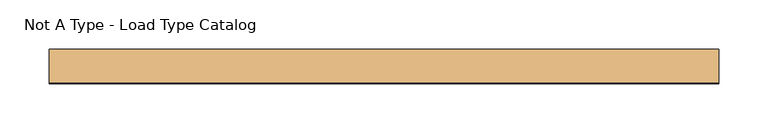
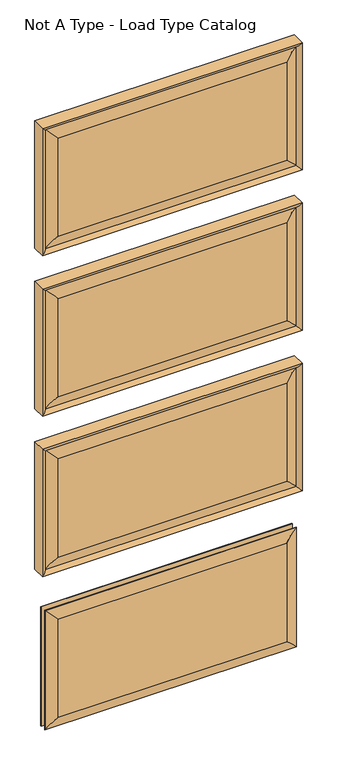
"""IFC4 building model written with IfcOpenShell, lengths in millimetres: door geometry, Door-Interior-Karona-K3040-4_Panel : Not A Type - Load Type Catalog."""

from ifc_helpers import new_model, si_unit, frame, origin, place, context, project, spatial, polyline, ellipse_curve, source, transform, mapped, element, save
from ifc_brep_helpers import plane_surface, cylinder_surface, revolved_surface, advanced_brep


def not_a_type_load_type_catalog_7697b4af(model_context):
    return source(origin(), model_context, "Body", "AdvancedBrep", [
        advanced_brep(
        [(-330.1873, 60.5616875, 1893.8748), (330.1873, 60.5616875, 1893.8748), (330.1873, 61.8853774, 1893.8748), (-330.1873, 61.8853774, 1893.8748), (330.1873, 60.5616875, 1562.90645), (-330.1873, 60.5616875, 1562.90645), (-330.1873, 61.8853774, 1562.90645), (330.1873, 61.8853774, 1562.90645), (-300.8782521, 69.9962, 1864.5657521), (300.8782521, 69.9962, 1864.5657521), (300.8782521, 69.9962, 1592.2154979), (-300.8782521, 69.9962, 1592.2154979)],
        [
            (0, 1),
            (1, 2),
            (2, 3),
            (3, 0),
            (4, 5),
            (5, 6),
            (6, 7),
            (7, 4),
            (5, 0),
            (3, 6),
            (8, 9),
            (9, 10),
            (10, 11),
            (11, 8),
            (1, 4),
            (7, 2),
            (2, 9, ellipse_curve(frame((332.1256685, 125.9004136, 1895.8131685), z_axis=(0.7071067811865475, 0.0, -0.7071067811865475), x_axis=(-0.7071067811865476, 0.0, -0.7071067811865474)), 90.5724254, 64.0443762)),
            (8, 3, ellipse_curve(frame((-332.1256685, 125.9004136, 1895.8131685), z_axis=(-0.7071067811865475, 0.0, -0.7071067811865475), x_axis=(-0.7071067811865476, 0.0, 0.7071067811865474)), 90.5724254, 64.0443762)),
            (7, 10, ellipse_curve(frame((332.1256685, 125.9004136, 1560.9680815), z_axis=(-0.7071067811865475, 0.0, -0.7071067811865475), x_axis=(-0.7071067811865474, 0.0, 0.7071067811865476)), 90.5724254, 64.0443762)),
            (6, 11, ellipse_curve(frame((-332.1256685, 125.9004136, 1560.9680815), z_axis=(-0.7071067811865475, 0.0, 0.7071067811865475), x_axis=(0.7071067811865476, 0.0, 0.7071067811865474)), 90.5724254, 64.0443762)),
        ],
        [
            plane_surface(frame((330.1873, 60.5616875, 1893.8748), z_axis=(0.0, 0.0, 1.0), x_axis=(1.0, 0.0, 0.0))),
            plane_surface(frame((330.1873, 60.5616875, 1562.90645), z_axis=(0.0, 0.0, -1.0), x_axis=(-1.0, 0.0, 0.0))),
            plane_surface(frame((-330.1873, 69.9962, 1893.8748), z_axis=(-1.0, 0.0, 0.0), x_axis=(0.0, 0.0, -1.0))),
            plane_surface(frame((330.1873, 69.9962, 1893.8748), z_axis=(0.0, 1.0, 0.0), x_axis=(0.0, 0.0, -1.0))),
            plane_surface(frame((330.1873, 60.5616875, 1893.8748), z_axis=(1.0, 0.0, 0.0), x_axis=(0.0, 0.0, -1.0))),
            plane_surface(frame((-330.1873, 60.5616875, 1893.8748), z_axis=(0.0, -1.0, 0.0), x_axis=(0.0, 0.0, -1.0))),
            revolved_surface(polyline([(-396.1700446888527, 125.9004136, 1831.7687923), (396.17004468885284, 125.9004136, 1831.7687923)]), (-341.3125, 125.9004136, 1895.8131685), (-1.0, 0.0, 0.0)),
            revolved_surface(polyline([(268.08129230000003, 125.9004136, 1959.8575446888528), (268.08129230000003, 125.9004136, 1496.9237053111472)]), (332.1256685, 125.9004136, 1905.0), (0.0, 0.0, 1.0)),
            revolved_surface(polyline([(396.1700446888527, 125.9004136, 1625.0124577), (-396.17004468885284, 125.9004136, 1625.0124577)]), (341.3125, 125.9004136, 1560.9680815), (1.0, 0.0, 0.0)),
            revolved_surface(polyline([(-268.08129230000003, 125.9004136, 1496.9237053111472), (-268.08129230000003, 125.9004136, 1959.8575446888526)]), (-332.1256685, 125.9004136, 1551.78125), (0.0, 0.0, -1.0)),
        ],
        [
            (0, [[1, 2, 3, 4]]),
            (1, [[5, 6, 7, 8]]),
            (2, [[9, -4, 10, -6]]),
            (3, [[11, 12, 13, 14]]),
            (4, [[15, -8, 16, -2]]),
            (5, [[-1, -9, -5, -15]]),
            (6, [[17, -11, 18, -3]]),
            (7, [[-17, -16, 19, -12]]),
            (8, [[-19, -7, 20, -13]]),
            (9, [[-20, -10, -18, -14]]),
        ],
    ),
        advanced_brep(
        [(330.1873, 44.3564875, 1893.8748), (-330.1873, 44.3564875, 1893.8748), (-330.1873, 43.0327976, 1893.8748), (330.1873, 43.0327976, 1893.8748), (-330.1873, 44.3564875, 1562.90645), (330.1873, 44.3564875, 1562.90645), (330.1873, 43.0327976, 1562.90645), (-330.1873, 43.0327976, 1562.90645), (-300.8527043, 34.9076875, 1592.2410457), (300.8527043, 34.9076875, 1592.2410457), (300.8527043, 34.9076875, 1864.5402043), (-300.8527043, 34.9076875, 1864.5402043)],
        [
            (0, 1),
            (1, 2),
            (2, 3),
            (3, 0),
            (4, 5),
            (5, 6),
            (6, 7),
            (7, 4),
            (0, 5),
            (4, 1),
            (8, 9),
            (9, 10),
            (10, 11),
            (11, 8),
            (8, 7, ellipse_curve(frame((-332.1256685, -20.9822386, 1560.9680815), z_axis=(-0.7071067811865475, 0.0, 0.7071067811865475), x_axis=(0.7071067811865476, 0.0, 0.7071067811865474)), 90.5724254, 64.0443762)),
            (6, 9, ellipse_curve(frame((332.1256685, -20.9822386, 1560.9680815), z_axis=(0.7071067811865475, 0.0, 0.7071067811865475), x_axis=(0.7071067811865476, 0.0, -0.7071067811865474)), 90.5724254, 64.0443762)),
            (11, 2, ellipse_curve(frame((-332.1256685, -20.9822386, 1895.8131685), z_axis=(0.7071067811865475, 0.0, 0.7071067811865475), x_axis=(0.7071067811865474, 0.0, -0.7071067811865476)), 90.5724254, 64.0443762)),
            (2, 7),
            (10, 3, ellipse_curve(frame((332.1256685, -20.9822386, 1895.8131685), z_axis=(0.7071067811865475, 0.0, -0.7071067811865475), x_axis=(-0.7071067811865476, 0.0, -0.7071067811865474)), 90.5724254, 64.0443762)),
            (6, 3),
        ],
        [
            plane_surface(frame((330.1873, 60.5616875, 1893.8748), z_axis=(0.0, 0.0, 1.0), x_axis=(1.0, 0.0, 0.0))),
            plane_surface(frame((330.1873, 60.5616875, 1562.90645), z_axis=(0.0, 0.0, -1.0), x_axis=(-1.0, 0.0, 0.0))),
            plane_surface(frame((330.1873, 44.3564875, 1893.8748), z_axis=(0.0, 1.0, 0.0), x_axis=(0.0, 0.0, -1.0))),
            plane_surface(frame((-330.1873, 34.9076875, 1893.8748), z_axis=(0.0, -1.0, 0.0), x_axis=(0.0, 0.0, -1.0))),
            revolved_surface(polyline([(396.1700446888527, -20.9822386, 1625.0124577), (-396.17004468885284, -20.9822386, 1625.0124577)]), (341.3125, -20.9822386, 1560.9680815), (1.0, 0.0, 0.0)),
            revolved_surface(polyline([(-268.08129230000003, -20.9822386, 1496.9237053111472), (-268.08129230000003, -20.9822386, 1959.8575446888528)]), (-332.1256685, -20.9822386, 1551.78125), (0.0, 0.0, -1.0)),
            revolved_surface(polyline([(-396.1700446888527, -20.9822386, 1831.7687923), (396.17004468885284, -20.9822386, 1831.7687923)]), (-341.3125, -20.9822386, 1895.8131685), (-1.0, 0.0, 0.0)),
            revolved_surface(polyline([(268.08129230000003, -20.9822386, 1959.8575446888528), (268.08129230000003, -20.9822386, 1496.9237053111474)]), (332.1256685, -20.9822386, 1905.0), (0.0, 0.0, 1.0)),
            plane_surface(frame((-330.1873, 44.3564875, 1893.8748), z_axis=(-1.0, 0.0, 0.0), x_axis=(0.0, 0.0, -1.0))),
            plane_surface(frame((330.1873, 34.9076875, 1893.8748), z_axis=(1.0, 0.0, 0.0), x_axis=(0.0, 0.0, -1.0))),
        ],
        [
            (0, [[1, 2, 3, 4]]),
            (1, [[5, 6, 7, 8]]),
            (2, [[-1, 9, -5, 10]]),
            (3, [[11, 12, 13, 14]]),
            (4, [[15, -7, 16, -11]]),
            (5, [[-15, -14, 17, 18]]),
            (6, [[-17, -13, 19, -3]]),
            (7, [[-19, -12, -16, 20]]),
            (8, [[-10, -8, -18, -2]]),
            (9, [[-9, -4, -20, -6]]),
        ],
    ),
        advanced_brep(
        [(341.3125, 69.9962, 1551.78125), (341.3125, 35.0346875, 1551.78125), (-341.3125, 35.0346875, 1551.78125), (-341.3125, 69.9962, 1551.78125), (330.1873, 60.5616875, 1562.90645), (330.1873, 61.8710899, 1562.90645), (-330.1873, 61.8710899, 1562.90645), (-330.1873, 60.5616875, 1562.90645), (340.0425, 44.3564875, 1553.05125), (340.0425, 60.5616875, 1553.05125), (-340.0425, 60.5616875, 1553.05125), (-340.0425, 44.3564875, 1553.05125), (-341.3125, 35.0346875, 1905.0), (-341.3125, 69.9962, 1905.0), (-330.1873, 61.8710899, 1893.8748), (-330.1873, 60.5616875, 1893.8748), (-340.0425, 60.5616875, 1903.73), (-340.0425, 44.3564875, 1903.73), (341.3125, 35.0346875, 1905.0), (341.3125, 69.9962, 1905.0), (330.1873, 61.8710899, 1893.8748), (330.1873, 60.5616875, 1893.8748), (340.0425, 60.5616875, 1903.73), (340.0425, 44.3564875, 1903.73), (329.9871863, 44.3564875, 1563.1065637), (329.9871863, 44.3564875, 1893.6746863), (-329.9871863, 44.3564875, 1893.6746863), (-329.9871863, 44.3564875, 1563.1065637), (339.0773, 69.9962, 1554.01645), (-339.0773, 69.9962, 1554.01645), (-339.0773, 69.9962, 1902.7648), (339.0773, 69.9962, 1902.7648)],
        [
            (0, 1),
            (1, 2),
            (2, 3),
            (3, 0),
            (4, 5),
            (5, 6),
            (6, 7),
            (7, 4),
            (8, 9),
            (9, 10),
            (10, 11),
            (11, 8),
            (2, 12),
            (12, 13),
            (13, 3),
            (6, 14),
            (14, 15),
            (15, 7),
            (10, 16),
            (16, 17),
            (17, 11),
            (12, 18),
            (18, 19),
            (19, 13),
            (14, 20),
            (20, 21),
            (21, 15),
            (16, 22),
            (22, 23),
            (23, 17),
            (18, 1),
            (0, 19),
            (20, 5),
            (4, 21),
            (9, 22),
            (8, 23),
            (24, 25),
            (25, 26),
            (26, 27),
            (27, 24),
            (5, 28, ellipse_curve(frame((339.0773, 61.070197, 1554.01645), z_axis=(-0.7071067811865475, 0.0, -0.7071067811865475), x_axis=(0.7071067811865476, 0.0, -0.7071067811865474)), 12.6232745, 8.926003)),
            (28, 29),
            (29, 6, ellipse_curve(frame((-339.0773, 61.070197, 1554.01645), z_axis=(0.7071067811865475, 0.0, -0.7071067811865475), x_axis=(0.7071067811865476, 0.0, 0.7071067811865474)), 12.6232745, 8.926003)),
            (1, 24, ellipse_curve(frame((340.2814876, 45.322701, 1552.8122624), z_axis=(-0.7071067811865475, 0.0, -0.7071067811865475), x_axis=(0.7071067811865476, 0.0, -0.7071067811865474)), 14.6223259, 10.3395458)),
            (27, 2, ellipse_curve(frame((-340.2814876, 45.322701, 1552.8122624), z_axis=(0.7071067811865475, 0.0, -0.7071067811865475), x_axis=(0.7071067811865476, 0.0, 0.7071067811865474)), 14.6223259, 10.3395458)),
            (29, 30),
            (30, 14, ellipse_curve(frame((-339.0773, 61.070197, 1902.7648), z_axis=(-0.7071067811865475, 0.0, -0.7071067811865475), x_axis=(0.7071067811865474, 0.0, -0.7071067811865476)), 12.6232745, 8.926003)),
            (26, 12, ellipse_curve(frame((-340.2814876, 45.322701, 1903.9689876), z_axis=(-0.7071067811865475, 0.0, -0.7071067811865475), x_axis=(0.7071067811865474, 0.0, -0.7071067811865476)), 14.6223259, 10.3395458)),
            (30, 31),
            (31, 20, ellipse_curve(frame((339.0773, 61.070197, 1902.7648), z_axis=(-0.7071067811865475, 0.0, 0.7071067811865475), x_axis=(-0.7071067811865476, 0.0, -0.7071067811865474)), 12.6232745, 8.926003)),
            (25, 18, ellipse_curve(frame((340.2814876, 45.322701, 1903.9689876), z_axis=(-0.7071067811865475, 0.0, 0.7071067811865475), x_axis=(-0.7071067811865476, 0.0, -0.7071067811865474)), 14.6223259, 10.3395458)),
            (28, 31),
        ],
        [
            plane_surface(frame((341.3125, 35.0346875, 1551.78125), z_axis=(0.0, 0.0, -1.0), x_axis=(-1.0, 0.0, 0.0))),
            plane_surface(frame((330.1873, 61.8710899, 1562.90645), z_axis=(0.0, 0.0, 1.0), x_axis=(-1.0, 0.0, 0.0))),
            plane_surface(frame((340.0425, 60.5616875, 1553.05125), z_axis=(0.0, 0.0, 1.0), x_axis=(-1.0, 0.0, 0.0))),
            plane_surface(frame((-341.3125, 35.0346875, 1551.78125), z_axis=(-1.0, 0.0, 0.0), x_axis=(0.0, 0.0, 1.0))),
            plane_surface(frame((-330.1873, 61.8710899, 1562.90645), z_axis=(1.0, 0.0, 0.0), x_axis=(0.0, 0.0, 1.0))),
            plane_surface(frame((-340.0425, 60.5616875, 1553.05125), z_axis=(1.0, 0.0, 0.0), x_axis=(0.0, 0.0, 1.0))),
            plane_surface(frame((-341.3125, 35.0346875, 1905.0), z_axis=(0.0, 0.0, 1.0), x_axis=(1.0, 0.0, 0.0))),
            plane_surface(frame((-330.1873, 61.8710899, 1893.8748), z_axis=(0.0, 0.0, -1.0), x_axis=(1.0, 0.0, 0.0))),
            plane_surface(frame((-340.0425, 60.5616875, 1903.73), z_axis=(0.0, 0.0, -1.0), x_axis=(1.0, 0.0, 0.0))),
            plane_surface(frame((341.3125, 35.0346875, 1905.0), z_axis=(1.0, 0.0, 0.0), x_axis=(0.0, 0.0, -1.0))),
            plane_surface(frame((330.1873, 61.8710899, 1893.8748), z_axis=(-1.0, 0.0, 0.0), x_axis=(0.0, 0.0, -1.0))),
            plane_surface(frame((330.1873, 60.5616875, 1893.8748), z_axis=(0.0, -1.0, 0.0), x_axis=(0.0, 0.0, -1.0))),
            plane_surface(frame((340.0425, 60.5616875, 1903.73), z_axis=(-1.0, 0.0, 0.0), x_axis=(0.0, 0.0, -1.0))),
            plane_surface(frame((340.0425, 44.3564875, 1903.73), z_axis=(0.0, 1.0, 0.0), x_axis=(0.0, 0.0, -1.0))),
            cylinder_surface(frame((341.3125, 61.070197, 1554.01645), z_axis=(1.0, 0.0, 0.0), x_axis=(0.0, -1.0, 0.0)), 8.926003),
            cylinder_surface(frame((341.3125, 45.322701, 1552.8122624), z_axis=(1.0, 0.0, 0.0), x_axis=(0.0, -1.0, 0.0)), 10.3395458),
            cylinder_surface(frame((-339.0773, 61.070197, 1551.78125), z_axis=(0.0, 0.0, -1.0), x_axis=(0.0, -1.0, 0.0)), 8.926003),
            cylinder_surface(frame((-340.2814876, 45.322701, 1551.78125), z_axis=(0.0, 0.0, -1.0), x_axis=(0.0, -1.0, 0.0)), 10.3395458),
            cylinder_surface(frame((-341.3125, 61.070197, 1902.7648), z_axis=(-1.0, 0.0, 0.0), x_axis=(0.0, -1.0, 0.0)), 8.926003),
            cylinder_surface(frame((-341.3125, 45.322701, 1903.9689876), z_axis=(-1.0, 0.0, 0.0), x_axis=(0.0, -1.0, 0.0)), 10.3395458),
            plane_surface(frame((341.3125, 69.9962, 1905.0), z_axis=(0.0, 1.0, 0.0), x_axis=(0.0, 0.0, -1.0))),
            cylinder_surface(frame((339.0773, 61.070197, 1905.0), z_axis=(0.0, 0.0, 1.0), x_axis=(0.0, -1.0, 0.0)), 8.926003),
            cylinder_surface(frame((340.2814876, 45.322701, 1905.0), z_axis=(0.0, 0.0, 1.0), x_axis=(0.0, -1.0, 0.0)), 10.3395458),
        ],
        [
            (0, [[1, 2, 3, 4]]),
            (1, [[5, 6, 7, 8]]),
            (2, [[9, 10, 11, 12]]),
            (3, [[-3, 13, 14, 15]]),
            (4, [[-7, 16, 17, 18]]),
            (5, [[-11, 19, 20, 21]]),
            (6, [[-14, 22, 23, 24]]),
            (7, [[-17, 25, 26, 27]]),
            (8, [[-20, 28, 29, 30]]),
            (9, [[-23, 31, -1, 32]]),
            (10, [[-26, 33, -5, 34]]),
            (11, [[35, -28, -19, -10], [-18, -27, -34, -8]]),
            (12, [[-29, -35, -9, 36]]),
            (13, [[-21, -30, -36, -12], [37, 38, 39, 40]]),
            (14, [[41, 42, 43, -6]]),
            (15, [[44, -40, 45, -2]]),
            (16, [[-43, 46, 47, -16]]),
            (17, [[-45, -39, 48, -13]]),
            (18, [[-47, 49, 50, -25]]),
            (19, [[-48, -38, 51, -22]]),
            (20, [[-15, -24, -32, -4], [52, -49, -46, -42]]),
            (21, [[-50, -52, -41, -33]]),
            (22, [[-51, -37, -44, -31]]),
        ],
    ),
        advanced_brep(
        [(-330.1873, 60.5616875, 1448.58105), (330.1873, 60.5616875, 1448.58105), (330.1873, 61.8853774, 1448.58105), (-330.1873, 61.8853774, 1448.58105), (330.1873, 60.5616875, 1117.6127), (-330.1873, 60.5616875, 1117.6127), (-330.1873, 61.8853774, 1117.6127), (330.1873, 61.8853774, 1117.6127), (-300.8782521, 69.9962, 1419.2720021), (300.8782521, 69.9962, 1419.2720021), (300.8782521, 69.9962, 1146.9217479), (-300.8782521, 69.9962, 1146.9217479)],
        [
            (0, 1),
            (1, 2),
            (2, 3),
            (3, 0),
            (4, 5),
            (5, 6),
            (6, 7),
            (7, 4),
            (5, 0),
            (3, 6),
            (8, 9),
            (9, 10),
            (10, 11),
            (11, 8),
            (1, 4),
            (7, 2),
            (2, 9, ellipse_curve(frame((332.1256685, 125.9004136, 1450.5194185), z_axis=(0.7071067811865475, 0.0, -0.7071067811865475), x_axis=(-0.7071067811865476, 0.0, -0.7071067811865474)), 90.5724254, 64.0443762)),
            (8, 3, ellipse_curve(frame((-332.1256685, 125.9004136, 1450.5194185), z_axis=(-0.7071067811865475, 0.0, -0.7071067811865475), x_axis=(-0.7071067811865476, 0.0, 0.7071067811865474)), 90.5724254, 64.0443762)),
            (7, 10, ellipse_curve(frame((332.1256685, 125.9004136, 1115.6743315), z_axis=(-0.7071067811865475, 0.0, -0.7071067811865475), x_axis=(-0.7071067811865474, 0.0, 0.7071067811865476)), 90.5724254, 64.0443762)),
            (6, 11, ellipse_curve(frame((-332.1256685, 125.9004136, 1115.6743315), z_axis=(-0.7071067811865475, 0.0, 0.7071067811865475), x_axis=(0.7071067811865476, 0.0, 0.7071067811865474)), 90.5724254, 64.0443762)),
        ],
        [
            plane_surface(frame((330.1873, 60.5616875, 1448.58105), z_axis=(0.0, 0.0, 1.0), x_axis=(1.0, 0.0, 0.0))),
            plane_surface(frame((330.1873, 60.5616875, 1117.6127), z_axis=(0.0, 0.0, -1.0), x_axis=(-1.0, 0.0, 0.0))),
            plane_surface(frame((-330.1873, 69.9962, 1448.58105), z_axis=(-1.0, 0.0, 0.0), x_axis=(0.0, 0.0, -1.0))),
            plane_surface(frame((330.1873, 69.9962, 1448.58105), z_axis=(0.0, 1.0, 0.0), x_axis=(0.0, 0.0, -1.0))),
            plane_surface(frame((330.1873, 60.5616875, 1448.58105), z_axis=(1.0, 0.0, 0.0), x_axis=(0.0, 0.0, -1.0))),
            plane_surface(frame((-330.1873, 60.5616875, 1448.58105), z_axis=(0.0, -1.0, 0.0), x_axis=(0.0, 0.0, -1.0))),
            revolved_surface(polyline([(-396.1700446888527, 125.9004136, 1386.4750423), (396.17004468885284, 125.9004136, 1386.4750423)]), (-341.3125, 125.9004136, 1450.5194185), (-1.0, 0.0, 0.0)),
            revolved_surface(polyline([(268.08129230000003, 125.9004136, 1514.5637946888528), (268.08129230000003, 125.9004136, 1051.6299553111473)]), (332.1256685, 125.9004136, 1459.70625), (0.0, 0.0, 1.0)),
            revolved_surface(polyline([(396.1700446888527, 125.9004136, 1179.7187077), (-396.17004468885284, 125.9004136, 1179.7187077)]), (341.3125, 125.9004136, 1115.6743315), (1.0, 0.0, 0.0)),
            revolved_surface(polyline([(-268.08129230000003, 125.9004136, 1051.6299553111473), (-268.08129230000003, 125.9004136, 1514.5637946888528)]), (-332.1256685, 125.9004136, 1106.4875), (0.0, 0.0, -1.0)),
        ],
        [
            (0, [[1, 2, 3, 4]]),
            (1, [[5, 6, 7, 8]]),
            (2, [[9, -4, 10, -6]]),
            (3, [[11, 12, 13, 14]]),
            (4, [[15, -8, 16, -2]]),
            (5, [[-1, -9, -5, -15]]),
            (6, [[17, -11, 18, -3]]),
            (7, [[-17, -16, 19, -12]]),
            (8, [[-19, -7, 20, -13]]),
            (9, [[-20, -10, -18, -14]]),
        ],
    ),
        advanced_brep(
        [(330.1873, 44.3564875, 1448.58105), (-330.1873, 44.3564875, 1448.58105), (-330.1873, 43.0327976, 1448.58105), (330.1873, 43.0327976, 1448.58105), (-330.1873, 44.3564875, 1117.6127), (330.1873, 44.3564875, 1117.6127), (330.1873, 43.0327976, 1117.6127), (-330.1873, 43.0327976, 1117.6127), (-300.8527043, 34.9076875, 1146.9472957), (300.8527043, 34.9076875, 1146.9472957), (300.8527043, 34.9076875, 1419.2464543), (-300.8527043, 34.9076875, 1419.2464543)],
        [
            (0, 1),
            (1, 2),
            (2, 3),
            (3, 0),
            (4, 5),
            (5, 6),
            (6, 7),
            (7, 4),
            (0, 5),
            (4, 1),
            (8, 9),
            (9, 10),
            (10, 11),
            (11, 8),
            (8, 7, ellipse_curve(frame((-332.1256685, -20.9822386, 1115.6743315), z_axis=(-0.7071067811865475, 0.0, 0.7071067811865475), x_axis=(0.7071067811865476, 0.0, 0.7071067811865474)), 90.5724254, 64.0443762)),
            (6, 9, ellipse_curve(frame((332.1256685, -20.9822386, 1115.6743315), z_axis=(0.7071067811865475, 0.0, 0.7071067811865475), x_axis=(0.7071067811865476, 0.0, -0.7071067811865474)), 90.5724254, 64.0443762)),
            (11, 2, ellipse_curve(frame((-332.1256685, -20.9822386, 1450.5194185), z_axis=(0.7071067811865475, 0.0, 0.7071067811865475), x_axis=(0.7071067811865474, 0.0, -0.7071067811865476)), 90.5724254, 64.0443762)),
            (2, 7),
            (10, 3, ellipse_curve(frame((332.1256685, -20.9822386, 1450.5194185), z_axis=(0.7071067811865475, 0.0, -0.7071067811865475), x_axis=(-0.7071067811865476, 0.0, -0.7071067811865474)), 90.5724254, 64.0443762)),
            (6, 3),
        ],
        [
            plane_surface(frame((330.1873, 60.5616875, 1448.58105), z_axis=(0.0, 0.0, 1.0), x_axis=(1.0, 0.0, 0.0))),
            plane_surface(frame((330.1873, 60.5616875, 1117.6127), z_axis=(0.0, 0.0, -1.0), x_axis=(-1.0, 0.0, 0.0))),
            plane_surface(frame((330.1873, 44.3564875, 1448.58105), z_axis=(0.0, 1.0, 0.0), x_axis=(0.0, 0.0, -1.0))),
            plane_surface(frame((-330.1873, 34.9076875, 1448.58105), z_axis=(0.0, -1.0, 0.0), x_axis=(0.0, 0.0, -1.0))),
            revolved_surface(polyline([(396.1700446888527, -20.9822386, 1179.7187077), (-396.17004468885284, -20.9822386, 1179.7187077)]), (341.3125, -20.9822386, 1115.6743315), (1.0, 0.0, 0.0)),
            revolved_surface(polyline([(-268.08129230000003, -20.9822386, 1051.6299553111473), (-268.08129230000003, -20.9822386, 1514.5637946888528)]), (-332.1256685, -20.9822386, 1106.4875), (0.0, 0.0, -1.0)),
            revolved_surface(polyline([(-396.1700446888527, -20.9822386, 1386.4750423), (396.17004468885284, -20.9822386, 1386.4750423)]), (-341.3125, -20.9822386, 1450.5194185), (-1.0, 0.0, 0.0)),
            revolved_surface(polyline([(268.08129230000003, -20.9822386, 1514.5637946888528), (268.08129230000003, -20.9822386, 1051.6299553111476)]), (332.1256685, -20.9822386, 1459.70625), (0.0, 0.0, 1.0)),
            plane_surface(frame((-330.1873, 44.3564875, 1448.58105), z_axis=(-1.0, 0.0, 0.0), x_axis=(0.0, 0.0, -1.0))),
            plane_surface(frame((330.1873, 34.9076875, 1448.58105), z_axis=(1.0, 0.0, 0.0), x_axis=(0.0, 0.0, -1.0))),
        ],
        [
            (0, [[1, 2, 3, 4]]),
            (1, [[5, 6, 7, 8]]),
            (2, [[-1, 9, -5, 10]]),
            (3, [[11, 12, 13, 14]]),
            (4, [[15, -7, 16, -11]]),
            (5, [[-15, -14, 17, 18]]),
            (6, [[-17, -13, 19, -3]]),
            (7, [[-19, -12, -16, 20]]),
            (8, [[-10, -8, -18, -2]]),
            (9, [[-9, -4, -20, -6]]),
        ],
    ),
        advanced_brep(
        [(341.3125, 69.9962, 1106.4875), (341.3125, 35.0346875, 1106.4875), (-341.3125, 35.0346875, 1106.4875), (-341.3125, 69.9962, 1106.4875), (330.1873, 60.5616875, 1117.6127), (330.1873, 61.8710899, 1117.6127), (-330.1873, 61.8710899, 1117.6127), (-330.1873, 60.5616875, 1117.6127), (340.0425, 44.3564875, 1107.7575), (340.0425, 60.5616875, 1107.7575), (-340.0425, 60.5616875, 1107.7575), (-340.0425, 44.3564875, 1107.7575), (-341.3125, 35.0346875, 1459.70625), (-341.3125, 69.9962, 1459.70625), (-330.1873, 61.8710899, 1448.58105), (-330.1873, 60.5616875, 1448.58105), (-340.0425, 60.5616875, 1458.43625), (-340.0425, 44.3564875, 1458.43625), (341.3125, 35.0346875, 1459.70625), (341.3125, 69.9962, 1459.70625), (330.1873, 61.8710899, 1448.58105), (330.1873, 60.5616875, 1448.58105), (340.0425, 60.5616875, 1458.43625), (340.0425, 44.3564875, 1458.43625), (329.9871863, 44.3564875, 1117.8128137), (329.9871863, 44.3564875, 1448.3809363), (-329.9871863, 44.3564875, 1448.3809363), (-329.9871863, 44.3564875, 1117.8128137), (339.0773, 69.9962, 1108.7227), (-339.0773, 69.9962, 1108.7227), (-339.0773, 69.9962, 1457.47105), (339.0773, 69.9962, 1457.47105)],
        [
            (0, 1),
            (1, 2),
            (2, 3),
            (3, 0),
            (4, 5),
            (5, 6),
            (6, 7),
            (7, 4),
            (8, 9),
            (9, 10),
            (10, 11),
            (11, 8),
            (2, 12),
            (12, 13),
            (13, 3),
            (6, 14),
            (14, 15),
            (15, 7),
            (10, 16),
            (16, 17),
            (17, 11),
            (12, 18),
            (18, 19),
            (19, 13),
            (14, 20),
            (20, 21),
            (21, 15),
            (16, 22),
            (22, 23),
            (23, 17),
            (18, 1),
            (0, 19),
            (20, 5),
            (4, 21),
            (9, 22),
            (8, 23),
            (24, 25),
            (25, 26),
            (26, 27),
            (27, 24),
            (5, 28, ellipse_curve(frame((339.0773, 61.070197, 1108.7227), z_axis=(-0.7071067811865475, 0.0, -0.7071067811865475), x_axis=(0.7071067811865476, 0.0, -0.7071067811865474)), 12.6232745, 8.926003)),
            (28, 29),
            (29, 6, ellipse_curve(frame((-339.0773, 61.070197, 1108.7227), z_axis=(0.7071067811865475, 0.0, -0.7071067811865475), x_axis=(0.7071067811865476, 0.0, 0.7071067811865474)), 12.6232745, 8.926003)),
            (1, 24, ellipse_curve(frame((340.2814876, 45.322701, 1107.5185124), z_axis=(-0.7071067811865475, 0.0, -0.7071067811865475), x_axis=(0.7071067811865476, 0.0, -0.7071067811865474)), 14.6223259, 10.3395458)),
            (27, 2, ellipse_curve(frame((-340.2814876, 45.322701, 1107.5185124), z_axis=(0.7071067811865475, 0.0, -0.7071067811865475), x_axis=(0.7071067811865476, 0.0, 0.7071067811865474)), 14.6223259, 10.3395458)),
            (29, 30),
            (30, 14, ellipse_curve(frame((-339.0773, 61.070197, 1457.47105), z_axis=(-0.7071067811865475, 0.0, -0.7071067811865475), x_axis=(0.7071067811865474, 0.0, -0.7071067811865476)), 12.6232745, 8.926003)),
            (26, 12, ellipse_curve(frame((-340.2814876, 45.322701, 1458.6752376), z_axis=(-0.7071067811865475, 0.0, -0.7071067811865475), x_axis=(0.7071067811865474, 0.0, -0.7071067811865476)), 14.6223259, 10.3395458)),
            (30, 31),
            (31, 20, ellipse_curve(frame((339.0773, 61.070197, 1457.47105), z_axis=(-0.7071067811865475, 0.0, 0.7071067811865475), x_axis=(-0.7071067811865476, 0.0, -0.7071067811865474)), 12.6232745, 8.926003)),
            (25, 18, ellipse_curve(frame((340.2814876, 45.322701, 1458.6752376), z_axis=(-0.7071067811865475, 0.0, 0.7071067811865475), x_axis=(-0.7071067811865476, 0.0, -0.7071067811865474)), 14.6223259, 10.3395458)),
            (28, 31),
        ],
        [
            plane_surface(frame((341.3125, 35.0346875, 1106.4875), z_axis=(0.0, 0.0, -1.0), x_axis=(-1.0, 0.0, 0.0))),
            plane_surface(frame((330.1873, 61.8710899, 1117.6127), z_axis=(0.0, 0.0, 1.0), x_axis=(-1.0, 0.0, 0.0))),
            plane_surface(frame((340.0425, 60.5616875, 1107.7575), z_axis=(0.0, 0.0, 1.0), x_axis=(-1.0, 0.0, 0.0))),
            plane_surface(frame((-341.3125, 35.0346875, 1106.4875), z_axis=(-1.0, 0.0, 0.0), x_axis=(0.0, 0.0, 1.0))),
            plane_surface(frame((-330.1873, 61.8710899, 1117.6127), z_axis=(1.0, 0.0, 0.0), x_axis=(0.0, 0.0, 1.0))),
            plane_surface(frame((-340.0425, 60.5616875, 1107.7575), z_axis=(1.0, 0.0, 0.0), x_axis=(0.0, 0.0, 1.0))),
            plane_surface(frame((-341.3125, 35.0346875, 1459.70625), z_axis=(0.0, 0.0, 1.0), x_axis=(1.0, 0.0, 0.0))),
            plane_surface(frame((-330.1873, 61.8710899, 1448.58105), z_axis=(0.0, 0.0, -1.0), x_axis=(1.0, 0.0, 0.0))),
            plane_surface(frame((-340.0425, 60.5616875, 1458.43625), z_axis=(0.0, 0.0, -1.0), x_axis=(1.0, 0.0, 0.0))),
            plane_surface(frame((341.3125, 35.0346875, 1459.70625), z_axis=(1.0, 0.0, 0.0), x_axis=(0.0, 0.0, -1.0))),
            plane_surface(frame((330.1873, 61.8710899, 1448.58105), z_axis=(-1.0, 0.0, 0.0), x_axis=(0.0, 0.0, -1.0))),
            plane_surface(frame((330.1873, 60.5616875, 1448.58105), z_axis=(0.0, -1.0, 0.0), x_axis=(0.0, 0.0, -1.0))),
            plane_surface(frame((340.0425, 60.5616875, 1458.43625), z_axis=(-1.0, 0.0, 0.0), x_axis=(0.0, 0.0, -1.0))),
            plane_surface(frame((340.0425, 44.3564875, 1458.43625), z_axis=(0.0, 1.0, 0.0), x_axis=(0.0, 0.0, -1.0))),
            cylinder_surface(frame((341.3125, 61.070197, 1108.7227), z_axis=(1.0, 0.0, 0.0), x_axis=(0.0, -1.0, 0.0)), 8.926003),
            cylinder_surface(frame((341.3125, 45.322701, 1107.5185124), z_axis=(1.0, 0.0, 0.0), x_axis=(0.0, -1.0, 0.0)), 10.3395458),
            cylinder_surface(frame((-339.0773, 61.070197, 1106.4875), z_axis=(0.0, 0.0, -1.0), x_axis=(0.0, -1.0, 0.0)), 8.926003),
            cylinder_surface(frame((-340.2814876, 45.322701, 1106.4875), z_axis=(0.0, 0.0, -1.0), x_axis=(0.0, -1.0, 0.0)), 10.3395458),
            cylinder_surface(frame((-341.3125, 61.070197, 1457.47105), z_axis=(-1.0, 0.0, 0.0), x_axis=(0.0, -1.0, 0.0)), 8.926003),
            cylinder_surface(frame((-341.3125, 45.322701, 1458.6752376), z_axis=(-1.0, 0.0, 0.0), x_axis=(0.0, -1.0, 0.0)), 10.3395458),
            plane_surface(frame((341.3125, 69.9962, 1459.70625), z_axis=(0.0, 1.0, 0.0), x_axis=(0.0, 0.0, -1.0))),
            cylinder_surface(frame((339.0773, 61.070197, 1459.70625), z_axis=(0.0, 0.0, 1.0), x_axis=(0.0, -1.0, 0.0)), 8.926003),
            cylinder_surface(frame((340.2814876, 45.322701, 1459.70625), z_axis=(0.0, 0.0, 1.0), x_axis=(0.0, -1.0, 0.0)), 10.3395458),
        ],
        [
            (0, [[1, 2, 3, 4]]),
            (1, [[5, 6, 7, 8]]),
            (2, [[9, 10, 11, 12]]),
            (3, [[-3, 13, 14, 15]]),
            (4, [[-7, 16, 17, 18]]),
            (5, [[-11, 19, 20, 21]]),
            (6, [[-14, 22, 23, 24]]),
            (7, [[-17, 25, 26, 27]]),
            (8, [[-20, 28, 29, 30]]),
            (9, [[-23, 31, -1, 32]]),
            (10, [[-26, 33, -5, 34]]),
            (11, [[35, -28, -19, -10], [-18, -27, -34, -8]]),
            (12, [[-29, -35, -9, 36]]),
            (13, [[-21, -30, -36, -12], [37, 38, 39, 40]]),
            (14, [[41, 42, 43, -6]]),
            (15, [[44, -40, 45, -2]]),
            (16, [[-43, 46, 47, -16]]),
            (17, [[-45, -39, 48, -13]]),
            (18, [[-47, 49, 50, -25]]),
            (19, [[-48, -38, 51, -22]]),
            (20, [[-15, -24, -32, -4], [52, -49, -46, -42]]),
            (21, [[-50, -52, -41, -33]]),
            (22, [[-51, -37, -44, -31]]),
        ],
    ),
        advanced_brep(
        [(-330.1873, 60.5616875, 1003.2873), (330.1873, 60.5616875, 1003.2873), (330.1873, 61.8853774, 1003.2873), (-330.1873, 61.8853774, 1003.2873), (330.1873, 60.5616875, 672.31895), (-330.1873, 60.5616875, 672.31895), (-330.1873, 61.8853774, 672.31895), (330.1873, 61.8853774, 672.31895), (-300.8782521, 69.9962, 973.9782521), (300.8782521, 69.9962, 973.9782521), (300.8782521, 69.9962, 701.6279979), (-300.8782521, 69.9962, 701.6279979)],
        [
            (0, 1),
            (1, 2),
            (2, 3),
            (3, 0),
            (4, 5),
            (5, 6),
            (6, 7),
            (7, 4),
            (5, 0),
            (3, 6),
            (8, 9),
            (9, 10),
            (10, 11),
            (11, 8),
            (1, 4),
            (7, 2),
            (2, 9, ellipse_curve(frame((332.1256685, 125.9004136, 1005.2256685), z_axis=(0.7071067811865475, 0.0, -0.7071067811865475), x_axis=(-0.7071067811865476, 0.0, -0.7071067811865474)), 90.5724254, 64.0443762)),
            (8, 3, ellipse_curve(frame((-332.1256685, 125.9004136, 1005.2256685), z_axis=(-0.7071067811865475, 0.0, -0.7071067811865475), x_axis=(-0.7071067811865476, 0.0, 0.7071067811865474)), 90.5724254, 64.0443762)),
            (7, 10, ellipse_curve(frame((332.1256685, 125.9004136, 670.3805815), z_axis=(-0.7071067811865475, 0.0, -0.7071067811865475), x_axis=(-0.7071067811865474, 0.0, 0.7071067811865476)), 90.5724254, 64.0443762)),
            (6, 11, ellipse_curve(frame((-332.1256685, 125.9004136, 670.3805815), z_axis=(-0.7071067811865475, 0.0, 0.7071067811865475), x_axis=(0.7071067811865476, 0.0, 0.7071067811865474)), 90.5724254, 64.0443762)),
        ],
        [
            plane_surface(frame((330.1873, 60.5616875, 1003.2873), z_axis=(0.0, 0.0, 1.0), x_axis=(1.0, 0.0, 0.0))),
            plane_surface(frame((330.1873, 60.5616875, 672.31895), z_axis=(0.0, 0.0, -1.0), x_axis=(-1.0, 0.0, 0.0))),
            plane_surface(frame((-330.1873, 69.9962, 1003.2873), z_axis=(-1.0, 0.0, 0.0), x_axis=(0.0, 0.0, -1.0))),
            plane_surface(frame((330.1873, 69.9962, 1003.2873), z_axis=(0.0, 1.0, 0.0), x_axis=(0.0, 0.0, -1.0))),
            plane_surface(frame((330.1873, 60.5616875, 1003.2873), z_axis=(1.0, 0.0, 0.0), x_axis=(0.0, 0.0, -1.0))),
            plane_surface(frame((-330.1873, 60.5616875, 1003.2873), z_axis=(0.0, -1.0, 0.0), x_axis=(0.0, 0.0, -1.0))),
            revolved_surface(polyline([(-396.1700446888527, 125.9004136, 941.1812923), (396.17004468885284, 125.9004136, 941.1812923)]), (-341.3125, 125.9004136, 1005.2256685), (-1.0, 0.0, 0.0)),
            revolved_surface(polyline([(268.08129230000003, 125.9004136, 1069.2700446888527), (268.08129230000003, 125.9004136, 606.3362053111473)]), (332.1256685, 125.9004136, 1014.4125), (0.0, 0.0, 1.0)),
            revolved_surface(polyline([(396.1700446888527, 125.9004136, 734.4249576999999), (-396.17004468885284, 125.9004136, 734.4249576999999)]), (341.3125, 125.9004136, 670.3805815), (1.0, 0.0, 0.0)),
            revolved_surface(polyline([(-268.08129230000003, 125.9004136, 606.3362053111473), (-268.08129230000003, 125.9004136, 1069.2700446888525)]), (-332.1256685, 125.9004136, 661.19375), (0.0, 0.0, -1.0)),
        ],
        [
            (0, [[1, 2, 3, 4]]),
            (1, [[5, 6, 7, 8]]),
            (2, [[9, -4, 10, -6]]),
            (3, [[11, 12, 13, 14]]),
            (4, [[15, -8, 16, -2]]),
            (5, [[-1, -9, -5, -15]]),
            (6, [[17, -11, 18, -3]]),
            (7, [[-17, -16, 19, -12]]),
            (8, [[-19, -7, 20, -13]]),
            (9, [[-20, -10, -18, -14]]),
        ],
    ),
        advanced_brep(
        [(330.1873, 44.3564875, 1003.2873), (-330.1873, 44.3564875, 1003.2873), (-330.1873, 43.0327976, 1003.2873), (330.1873, 43.0327976, 1003.2873), (-330.1873, 44.3564875, 672.31895), (330.1873, 44.3564875, 672.31895), (330.1873, 43.0327976, 672.31895), (-330.1873, 43.0327976, 672.31895), (-300.8527043, 34.9076875, 701.6535457), (300.8527043, 34.9076875, 701.6535457), (300.8527043, 34.9076875, 973.9527043), (-300.8527043, 34.9076875, 973.9527043)],
        [
            (0, 1),
            (1, 2),
            (2, 3),
            (3, 0),
            (4, 5),
            (5, 6),
            (6, 7),
            (7, 4),
            (0, 5),
            (4, 1),
            (8, 9),
            (9, 10),
            (10, 11),
            (11, 8),
            (8, 7, ellipse_curve(frame((-332.1256685, -20.9822386, 670.3805815), z_axis=(-0.7071067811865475, 0.0, 0.7071067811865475), x_axis=(0.7071067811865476, 0.0, 0.7071067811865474)), 90.5724254, 64.0443762)),
            (6, 9, ellipse_curve(frame((332.1256685, -20.9822386, 670.3805815), z_axis=(0.7071067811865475, 0.0, 0.7071067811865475), x_axis=(0.7071067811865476, 0.0, -0.7071067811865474)), 90.5724254, 64.0443762)),
            (11, 2, ellipse_curve(frame((-332.1256685, -20.9822386, 1005.2256685), z_axis=(0.7071067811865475, 0.0, 0.7071067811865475), x_axis=(0.7071067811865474, 0.0, -0.7071067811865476)), 90.5724254, 64.0443762)),
            (2, 7),
            (10, 3, ellipse_curve(frame((332.1256685, -20.9822386, 1005.2256685), z_axis=(0.7071067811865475, 0.0, -0.7071067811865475), x_axis=(-0.7071067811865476, 0.0, -0.7071067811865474)), 90.5724254, 64.0443762)),
            (6, 3),
        ],
        [
            plane_surface(frame((330.1873, 60.5616875, 1003.2873), z_axis=(0.0, 0.0, 1.0), x_axis=(1.0, 0.0, 0.0))),
            plane_surface(frame((330.1873, 60.5616875, 672.31895), z_axis=(0.0, 0.0, -1.0), x_axis=(-1.0, 0.0, 0.0))),
            plane_surface(frame((330.1873, 44.3564875, 1003.2873), z_axis=(0.0, 1.0, 0.0), x_axis=(0.0, 0.0, -1.0))),
            plane_surface(frame((-330.1873, 34.9076875, 1003.2873), z_axis=(0.0, -1.0, 0.0), x_axis=(0.0, 0.0, -1.0))),
            revolved_surface(polyline([(396.1700446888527, -20.9822386, 734.4249576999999), (-396.17004468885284, -20.9822386, 734.4249576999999)]), (341.3125, -20.9822386, 670.3805815), (1.0, 0.0, 0.0)),
            revolved_surface(polyline([(-268.08129230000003, -20.9822386, 606.3362053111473), (-268.08129230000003, -20.9822386, 1069.2700446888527)]), (-332.1256685, -20.9822386, 661.19375), (0.0, 0.0, -1.0)),
            revolved_surface(polyline([(-396.1700446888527, -20.9822386, 941.1812923), (396.17004468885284, -20.9822386, 941.1812923)]), (-341.3125, -20.9822386, 1005.2256685), (-1.0, 0.0, 0.0)),
            revolved_surface(polyline([(268.08129230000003, -20.9822386, 1069.2700446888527), (268.08129230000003, -20.9822386, 606.3362053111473)]), (332.1256685, -20.9822386, 1014.4125), (0.0, 0.0, 1.0)),
            plane_surface(frame((-330.1873, 44.3564875, 1003.2873), z_axis=(-1.0, 0.0, 0.0), x_axis=(0.0, 0.0, -1.0))),
            plane_surface(frame((330.1873, 34.9076875, 1003.2873), z_axis=(1.0, 0.0, 0.0), x_axis=(0.0, 0.0, -1.0))),
        ],
        [
            (0, [[1, 2, 3, 4]]),
            (1, [[5, 6, 7, 8]]),
            (2, [[-1, 9, -5, 10]]),
            (3, [[11, 12, 13, 14]]),
            (4, [[15, -7, 16, -11]]),
            (5, [[-15, -14, 17, 18]]),
            (6, [[-17, -13, 19, -3]]),
            (7, [[-19, -12, -16, 20]]),
            (8, [[-10, -8, -18, -2]]),
            (9, [[-9, -4, -20, -6]]),
        ],
    ),
        advanced_brep(
        [(341.3125, 69.9962, 661.19375), (341.3125, 35.0346875, 661.19375), (-341.3125, 35.0346875, 661.19375), (-341.3125, 69.9962, 661.19375), (330.1873, 60.5616875, 672.31895), (330.1873, 61.8710899, 672.31895), (-330.1873, 61.8710899, 672.31895), (-330.1873, 60.5616875, 672.31895), (340.0425, 44.3564875, 662.46375), (340.0425, 60.5616875, 662.46375), (-340.0425, 60.5616875, 662.46375), (-340.0425, 44.3564875, 662.46375), (-341.3125, 35.0346875, 1014.4125), (-341.3125, 69.9962, 1014.4125), (-330.1873, 61.8710899, 1003.2873), (-330.1873, 60.5616875, 1003.2873), (-340.0425, 60.5616875, 1013.1425), (-340.0425, 44.3564875, 1013.1425), (341.3125, 35.0346875, 1014.4125), (341.3125, 69.9962, 1014.4125), (330.1873, 61.8710899, 1003.2873), (330.1873, 60.5616875, 1003.2873), (340.0425, 60.5616875, 1013.1425), (340.0425, 44.3564875, 1013.1425), (329.9871863, 44.3564875, 672.5190637), (329.9871863, 44.3564875, 1003.0871863), (-329.9871863, 44.3564875, 1003.0871863), (-329.9871863, 44.3564875, 672.5190637), (339.0773, 69.9962, 663.42895), (-339.0773, 69.9962, 663.42895), (-339.0773, 69.9962, 1012.1773), (339.0773, 69.9962, 1012.1773)],
        [
            (0, 1),
            (1, 2),
            (2, 3),
            (3, 0),
            (4, 5),
            (5, 6),
            (6, 7),
            (7, 4),
            (8, 9),
            (9, 10),
            (10, 11),
            (11, 8),
            (2, 12),
            (12, 13),
            (13, 3),
            (6, 14),
            (14, 15),
            (15, 7),
            (10, 16),
            (16, 17),
            (17, 11),
            (12, 18),
            (18, 19),
            (19, 13),
            (14, 20),
            (20, 21),
            (21, 15),
            (16, 22),
            (22, 23),
            (23, 17),
            (18, 1),
            (0, 19),
            (20, 5),
            (4, 21),
            (9, 22),
            (8, 23),
            (24, 25),
            (25, 26),
            (26, 27),
            (27, 24),
            (5, 28, ellipse_curve(frame((339.0773, 61.070197, 663.42895), z_axis=(-0.7071067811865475, 0.0, -0.7071067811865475), x_axis=(0.7071067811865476, 0.0, -0.7071067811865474)), 12.6232745, 8.926003)),
            (28, 29),
            (29, 6, ellipse_curve(frame((-339.0773, 61.070197, 663.42895), z_axis=(0.7071067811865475, 0.0, -0.7071067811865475), x_axis=(0.7071067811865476, 0.0, 0.7071067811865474)), 12.6232745, 8.926003)),
            (1, 24, ellipse_curve(frame((340.2814876, 45.322701, 662.2247624), z_axis=(-0.7071067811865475, 0.0, -0.7071067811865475), x_axis=(0.7071067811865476, 0.0, -0.7071067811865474)), 14.6223259, 10.3395458)),
            (27, 2, ellipse_curve(frame((-340.2814876, 45.322701, 662.2247624), z_axis=(0.7071067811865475, 0.0, -0.7071067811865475), x_axis=(0.7071067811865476, 0.0, 0.7071067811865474)), 14.6223259, 10.3395458)),
            (29, 30),
            (30, 14, ellipse_curve(frame((-339.0773, 61.070197, 1012.1773), z_axis=(-0.7071067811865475, 0.0, -0.7071067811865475), x_axis=(0.7071067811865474, 0.0, -0.7071067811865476)), 12.6232745, 8.926003)),
            (26, 12, ellipse_curve(frame((-340.2814876, 45.322701, 1013.3814876), z_axis=(-0.7071067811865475, 0.0, -0.7071067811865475), x_axis=(0.7071067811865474, 0.0, -0.7071067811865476)), 14.6223259, 10.3395458)),
            (30, 31),
            (31, 20, ellipse_curve(frame((339.0773, 61.070197, 1012.1773), z_axis=(-0.7071067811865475, 0.0, 0.7071067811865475), x_axis=(-0.7071067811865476, 0.0, -0.7071067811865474)), 12.6232745, 8.926003)),
            (25, 18, ellipse_curve(frame((340.2814876, 45.322701, 1013.3814876), z_axis=(-0.7071067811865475, 0.0, 0.7071067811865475), x_axis=(-0.7071067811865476, 0.0, -0.7071067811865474)), 14.6223259, 10.3395458)),
            (28, 31),
        ],
        [
            plane_surface(frame((341.3125, 35.0346875, 661.19375), z_axis=(0.0, 0.0, -1.0), x_axis=(-1.0, 0.0, 0.0))),
            plane_surface(frame((330.1873, 61.8710899, 672.31895), z_axis=(0.0, 0.0, 1.0), x_axis=(-1.0, 0.0, 0.0))),
            plane_surface(frame((340.0425, 60.5616875, 662.46375), z_axis=(0.0, 0.0, 1.0), x_axis=(-1.0, 0.0, 0.0))),
            plane_surface(frame((-341.3125, 35.0346875, 661.19375), z_axis=(-1.0, 0.0, 0.0), x_axis=(0.0, 0.0, 1.0))),
            plane_surface(frame((-330.1873, 61.8710899, 672.31895), z_axis=(1.0, 0.0, 0.0), x_axis=(0.0, 0.0, 1.0))),
            plane_surface(frame((-340.0425, 60.5616875, 662.46375), z_axis=(1.0, 0.0, 0.0), x_axis=(0.0, 0.0, 1.0))),
            plane_surface(frame((-341.3125, 35.0346875, 1014.4125), z_axis=(0.0, 0.0, 1.0), x_axis=(1.0, 0.0, 0.0))),
            plane_surface(frame((-330.1873, 61.8710899, 1003.2873), z_axis=(0.0, 0.0, -1.0), x_axis=(1.0, 0.0, 0.0))),
            plane_surface(frame((-340.0425, 60.5616875, 1013.1425), z_axis=(0.0, 0.0, -1.0), x_axis=(1.0, 0.0, 0.0))),
            plane_surface(frame((341.3125, 35.0346875, 1014.4125), z_axis=(1.0, 0.0, 0.0), x_axis=(0.0, 0.0, -1.0))),
            plane_surface(frame((330.1873, 61.8710899, 1003.2873), z_axis=(-1.0, 0.0, 0.0), x_axis=(0.0, 0.0, -1.0))),
            plane_surface(frame((330.1873, 60.5616875, 1003.2873), z_axis=(0.0, -1.0, 0.0), x_axis=(0.0, 0.0, -1.0))),
            plane_surface(frame((340.0425, 60.5616875, 1013.1425), z_axis=(-1.0, 0.0, 0.0), x_axis=(0.0, 0.0, -1.0))),
            plane_surface(frame((340.0425, 44.3564875, 1013.1425), z_axis=(0.0, 1.0, 0.0), x_axis=(0.0, 0.0, -1.0))),
            cylinder_surface(frame((341.3125, 61.070197, 663.42895), z_axis=(1.0, 0.0, 0.0), x_axis=(0.0, -1.0, 0.0)), 8.926003),
            cylinder_surface(frame((341.3125, 45.322701, 662.2247624), z_axis=(1.0, 0.0, 0.0), x_axis=(0.0, -1.0, 0.0)), 10.3395458),
            cylinder_surface(frame((-339.0773, 61.070197, 661.19375), z_axis=(0.0, 0.0, -1.0), x_axis=(0.0, -1.0, 0.0)), 8.926003),
            cylinder_surface(frame((-340.2814876, 45.322701, 661.19375), z_axis=(0.0, 0.0, -1.0), x_axis=(0.0, -1.0, 0.0)), 10.3395458),
            cylinder_surface(frame((-341.3125, 61.070197, 1012.1773), z_axis=(-1.0, 0.0, 0.0), x_axis=(0.0, -1.0, 0.0)), 8.926003),
            cylinder_surface(frame((-341.3125, 45.322701, 1013.3814876), z_axis=(-1.0, 0.0, 0.0), x_axis=(0.0, -1.0, 0.0)), 10.3395458),
            plane_surface(frame((341.3125, 69.9962, 1014.4125), z_axis=(0.0, 1.0, 0.0), x_axis=(0.0, 0.0, -1.0))),
            cylinder_surface(frame((339.0773, 61.070197, 1014.4125), z_axis=(0.0, 0.0, 1.0), x_axis=(0.0, -1.0, 0.0)), 8.926003),
            cylinder_surface(frame((340.2814876, 45.322701, 1014.4125), z_axis=(0.0, 0.0, 1.0), x_axis=(0.0, -1.0, 0.0)), 10.3395458),
        ],
        [
            (0, [[1, 2, 3, 4]]),
            (1, [[5, 6, 7, 8]]),
            (2, [[9, 10, 11, 12]]),
            (3, [[-3, 13, 14, 15]]),
            (4, [[-7, 16, 17, 18]]),
            (5, [[-11, 19, 20, 21]]),
            (6, [[-14, 22, 23, 24]]),
            (7, [[-17, 25, 26, 27]]),
            (8, [[-20, 28, 29, 30]]),
            (9, [[-23, 31, -1, 32]]),
            (10, [[-26, 33, -5, 34]]),
            (11, [[35, -28, -19, -10], [-18, -27, -34, -8]]),
            (12, [[-29, -35, -9, 36]]),
            (13, [[-21, -30, -36, -12], [37, 38, 39, 40]]),
            (14, [[41, 42, 43, -6]]),
            (15, [[44, -40, 45, -2]]),
            (16, [[-43, 46, 47, -16]]),
            (17, [[-45, -39, 48, -13]]),
            (18, [[-47, 49, 50, -25]]),
            (19, [[-48, -38, 51, -22]]),
            (20, [[-15, -24, -32, -4], [52, -49, -46, -42]]),
            (21, [[-50, -52, -41, -33]]),
            (22, [[-51, -37, -44, -31]]),
        ],
    ),
        advanced_brep(
        [(-330.1873, 60.5616875, 557.99355), (330.1873, 60.5616875, 557.99355), (330.1873, 61.8853774, 557.99355), (-330.1873, 61.8853774, 557.99355), (330.1873, 60.5616875, 227.0252), (-330.1873, 60.5616875, 227.0252), (-330.1873, 61.8853774, 227.0252), (330.1873, 61.8853774, 227.0252), (-300.8782521, 69.9962, 528.6845021), (300.8782521, 69.9962, 528.6845021), (300.8782521, 69.9962, 256.3342479), (-300.8782521, 69.9962, 256.3342479)],
        [
            (0, 1),
            (1, 2),
            (2, 3),
            (3, 0),
            (4, 5),
            (5, 6),
            (6, 7),
            (7, 4),
            (5, 0),
            (3, 6),
            (8, 9),
            (9, 10),
            (10, 11),
            (11, 8),
            (1, 4),
            (7, 2),
            (2, 9, ellipse_curve(frame((332.1256685, 125.9004136, 559.9319185), z_axis=(0.7071067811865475, 0.0, -0.7071067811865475), x_axis=(-0.7071067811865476, 0.0, -0.7071067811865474)), 90.5724254, 64.0443762)),
            (8, 3, ellipse_curve(frame((-332.1256685, 125.9004136, 559.9319185), z_axis=(-0.7071067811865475, 0.0, -0.7071067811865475), x_axis=(-0.7071067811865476, 0.0, 0.7071067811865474)), 90.5724254, 64.0443762)),
            (7, 10, ellipse_curve(frame((332.1256685, 125.9004136, 225.0868315), z_axis=(-0.7071067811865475, 0.0, -0.7071067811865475), x_axis=(-0.7071067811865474, 0.0, 0.7071067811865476)), 90.5724254, 64.0443762)),
            (6, 11, ellipse_curve(frame((-332.1256685, 125.9004136, 225.0868315), z_axis=(-0.7071067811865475, 0.0, 0.7071067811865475), x_axis=(0.7071067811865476, 0.0, 0.7071067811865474)), 90.5724254, 64.0443762)),
        ],
        [
            plane_surface(frame((330.1873, 60.5616875, 557.99355), z_axis=(0.0, 0.0, 1.0), x_axis=(1.0, 0.0, 0.0))),
            plane_surface(frame((330.1873, 60.5616875, 227.0252), z_axis=(0.0, 0.0, -1.0), x_axis=(-1.0, 0.0, 0.0))),
            plane_surface(frame((-330.1873, 69.9962, 557.99355), z_axis=(-1.0, 0.0, 0.0), x_axis=(0.0, 0.0, -1.0))),
            plane_surface(frame((330.1873, 69.9962, 557.99355), z_axis=(0.0, 1.0, 0.0), x_axis=(0.0, 0.0, -1.0))),
            plane_surface(frame((330.1873, 60.5616875, 557.99355), z_axis=(1.0, 0.0, 0.0), x_axis=(0.0, 0.0, -1.0))),
            plane_surface(frame((-330.1873, 60.5616875, 557.99355), z_axis=(0.0, -1.0, 0.0), x_axis=(0.0, 0.0, -1.0))),
            revolved_surface(polyline([(-396.1700446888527, 125.9004136, 495.88754230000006), (396.17004468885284, 125.9004136, 495.88754230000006)]), (-341.3125, 125.9004136, 559.9319185), (-1.0, 0.0, 0.0)),
            revolved_surface(polyline([(268.08129230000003, 125.9004136, 623.9762946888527), (268.08129230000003, 125.9004136, 161.0424553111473)]), (332.1256685, 125.9004136, 569.11875), (0.0, 0.0, 1.0)),
            revolved_surface(polyline([(396.1700446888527, 125.9004136, 289.1312077), (-396.17004468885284, 125.9004136, 289.1312077)]), (341.3125, 125.9004136, 225.0868315), (1.0, 0.0, 0.0)),
            revolved_surface(polyline([(-268.08129230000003, 125.9004136, 161.0424553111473), (-268.08129230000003, 125.9004136, 623.9762946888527)]), (-332.1256685, 125.9004136, 215.9), (0.0, 0.0, -1.0)),
        ],
        [
            (0, [[1, 2, 3, 4]]),
            (1, [[5, 6, 7, 8]]),
            (2, [[9, -4, 10, -6]]),
            (3, [[11, 12, 13, 14]]),
            (4, [[15, -8, 16, -2]]),
            (5, [[-1, -9, -5, -15]]),
            (6, [[17, -11, 18, -3]]),
            (7, [[-17, -16, 19, -12]]),
            (8, [[-19, -7, 20, -13]]),
            (9, [[-20, -10, -18, -14]]),
        ],
    ),
        advanced_brep(
        [(330.1873, 44.3564875, 557.99355), (-330.1873, 44.3564875, 557.99355), (-330.1873, 43.0327976, 557.99355), (330.1873, 43.0327976, 557.99355), (-330.1873, 44.3564875, 227.0252), (330.1873, 44.3564875, 227.0252), (330.1873, 43.0327976, 227.0252), (-330.1873, 43.0327976, 227.0252), (-300.8527043, 34.9076875, 256.3597957), (300.8527043, 34.9076875, 256.3597957), (300.8527043, 34.9076875, 528.6589543), (-300.8527043, 34.9076875, 528.6589543)],
        [
            (0, 1),
            (1, 2),
            (2, 3),
            (3, 0),
            (4, 5),
            (5, 6),
            (6, 7),
            (7, 4),
            (0, 5),
            (4, 1),
            (8, 9),
            (9, 10),
            (10, 11),
            (11, 8),
            (8, 7, ellipse_curve(frame((-332.1256685, -20.9822386, 225.0868315), z_axis=(-0.7071067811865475, 0.0, 0.7071067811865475), x_axis=(0.7071067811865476, 0.0, 0.7071067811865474)), 90.5724254, 64.0443762)),
            (6, 9, ellipse_curve(frame((332.1256685, -20.9822386, 225.0868315), z_axis=(0.7071067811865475, 0.0, 0.7071067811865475), x_axis=(0.7071067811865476, 0.0, -0.7071067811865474)), 90.5724254, 64.0443762)),
            (11, 2, ellipse_curve(frame((-332.1256685, -20.9822386, 559.9319185), z_axis=(0.7071067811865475, 0.0, 0.7071067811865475), x_axis=(0.7071067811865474, 0.0, -0.7071067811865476)), 90.5724254, 64.0443762)),
            (2, 7),
            (10, 3, ellipse_curve(frame((332.1256685, -20.9822386, 559.9319185), z_axis=(0.7071067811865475, 0.0, -0.7071067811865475), x_axis=(-0.7071067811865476, 0.0, -0.7071067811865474)), 90.5724254, 64.0443762)),
            (6, 3),
        ],
        [
            plane_surface(frame((330.1873, 60.5616875, 557.99355), z_axis=(0.0, 0.0, 1.0), x_axis=(1.0, 0.0, 0.0))),
            plane_surface(frame((330.1873, 60.5616875, 227.0252), z_axis=(0.0, 0.0, -1.0), x_axis=(-1.0, 0.0, 0.0))),
            plane_surface(frame((330.1873, 44.3564875, 557.99355), z_axis=(0.0, 1.0, 0.0), x_axis=(0.0, 0.0, -1.0))),
            plane_surface(frame((-330.1873, 34.9076875, 557.99355), z_axis=(0.0, -1.0, 0.0), x_axis=(0.0, 0.0, -1.0))),
            revolved_surface(polyline([(396.1700446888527, -20.9822386, 289.1312077), (-396.17004468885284, -20.9822386, 289.1312077)]), (341.3125, -20.9822386, 225.0868315), (1.0, 0.0, 0.0)),
            revolved_surface(polyline([(-268.08129230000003, -20.9822386, 161.0424553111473), (-268.08129230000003, -20.9822386, 623.9762946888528)]), (-332.1256685, -20.9822386, 215.9), (0.0, 0.0, -1.0)),
            revolved_surface(polyline([(-396.1700446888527, -20.9822386, 495.88754230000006), (396.17004468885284, -20.9822386, 495.88754230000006)]), (-341.3125, -20.9822386, 559.9319185), (-1.0, 0.0, 0.0)),
            revolved_surface(polyline([(268.08129230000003, -20.9822386, 623.9762946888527), (268.08129230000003, -20.9822386, 161.04245531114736)]), (332.1256685, -20.9822386, 569.11875), (0.0, 0.0, 1.0)),
            plane_surface(frame((-330.1873, 44.3564875, 557.99355), z_axis=(-1.0, 0.0, 0.0), x_axis=(0.0, 0.0, -1.0))),
            plane_surface(frame((330.1873, 34.9076875, 557.99355), z_axis=(1.0, 0.0, 0.0), x_axis=(0.0, 0.0, -1.0))),
        ],
        [
            (0, [[1, 2, 3, 4]]),
            (1, [[5, 6, 7, 8]]),
            (2, [[-1, 9, -5, 10]]),
            (3, [[11, 12, 13, 14]]),
            (4, [[15, -7, 16, -11]]),
            (5, [[-15, -14, 17, 18]]),
            (6, [[-17, -13, 19, -3]]),
            (7, [[-19, -12, -16, 20]]),
            (8, [[-10, -8, -18, -2]]),
            (9, [[-9, -4, -20, -6]]),
        ],
    ),
    ])


if __name__ == "__main__":
    model = new_model("IFC4")
    model_context = context("Model", 3, world=origin())
    ifc_project = project(units=[si_unit("LENGTHUNIT", "METRE", prefix="MILLI")], contexts=[model_context])
    site = spatial("IfcSite", under=ifc_project)
    building = spatial("IfcBuilding", under=site)
    placement = place(None, origin())
    not_a_type_load_type_catalog_shape = not_a_type_load_type_catalog_7697b4af(model_context)
    element("IfcDoor", 1, ObjectType="Door-Interior-Karona-K3040-4_Panel : Not A Type - Load Type Catalog", at=placement, inside=building, context=model_context, shape_type="MappedRepresentation", body=[
        mapped(not_a_type_load_type_catalog_shape, transform((0.0, 0.0, 0.0), x_axis=(1.0, 0.0, 0.0), y_axis=(0.0, 1.0, 0.0), z_axis=(0.0, 0.0, 1.0))),
    ])
    save(model, "model.ifc")
